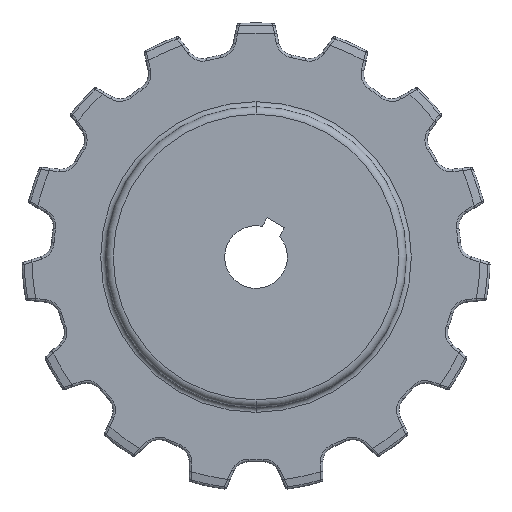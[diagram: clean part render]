
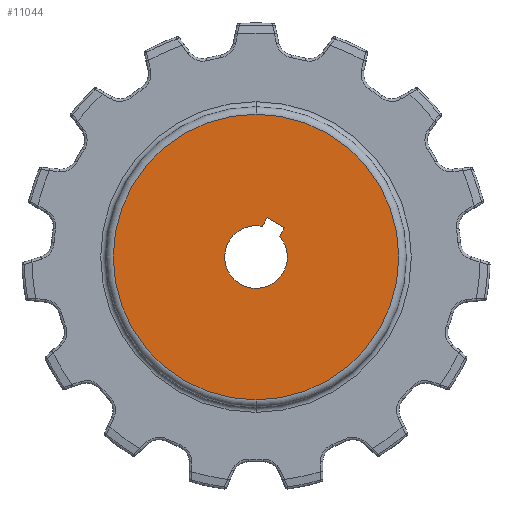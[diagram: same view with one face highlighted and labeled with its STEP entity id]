
A CAD part, left-side view. The second image highlights one B-rep face of the part: STEP entity #11044.
In plain terms, the highlighted planar face has unit normal (-1, 0, 0).
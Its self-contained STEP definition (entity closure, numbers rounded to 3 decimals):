
#2244=CARTESIAN_POINT('',(-21.15,0.,0.));
#2245=DIRECTION('',(-1.,0.,0.));
#2246=DIRECTION('',(0.,0.,-1.));
#2247=AXIS2_PLACEMENT_3D('',#2244,#2245,#2246);
#2252=CARTESIAN_POINT('',(-21.15,0.,0.));
#2253=DIRECTION('',(1.,0.,0.));
#2254=DIRECTION('',(0.,0.,-1.));
#2255=AXIS2_PLACEMENT_3D('',#2252,#2253,#2254);
#2260=DIRECTION('',(0.,0.5,-0.866));
#2261=VECTOR('',#2260,3.957);
#2262=CARTESIAN_POINT('',(-21.15,-11.364,11.683));
#2263=LINE('',#2262,#2261);
#2267=DIRECTION('',(0.,-0.866,-0.5));
#2268=VECTOR('',#2267,8.);
#2269=CARTESIAN_POINT('',(-21.15,-4.436,15.683));
#2270=LINE('',#2269,#2268);
#2274=DIRECTION('',(0.,-0.5,0.866));
#2275=VECTOR('',#2274,3.957);
#2276=CARTESIAN_POINT('',(-21.15,-2.457,12.256));
#2277=LINE('',#2276,#2275);
#2281=CARTESIAN_POINT('',(-21.15,0.,0.));
#2282=DIRECTION('',(1.,0.,0.));
#2283=DIRECTION('',(0.,-0.751,0.66));
#2284=AXIS2_PLACEMENT_3D('',#2281,#2282,#2283);
#8946=CARTESIAN_POINT('',(-21.15,0.,-57.));
#8948=VERTEX_POINT('',#8946);
#8950=CARTESIAN_POINT('',(-21.15,0.,57.));
#8952=VERTEX_POINT('',#8950);
#9982=CARTESIAN_POINT('',(-21.15,-11.364,11.683));
#9983=CARTESIAN_POINT('',(-21.15,-9.385,8.256));
#9984=VERTEX_POINT('',#9982);
#9985=VERTEX_POINT('',#9983);
#9986=CARTESIAN_POINT('',(-21.15,-2.457,12.256));
#9987=VERTEX_POINT('',#9986);
#9988=CARTESIAN_POINT('',(-21.15,-4.436,15.683));
#9989=VERTEX_POINT('',#9988);
#11025=CARTESIAN_POINT('',(-21.15,0.,0.));
#11026=DIRECTION('',(1.,0.,0.));
#11027=DIRECTION('',(0.,0.,1.));
#11028=AXIS2_PLACEMENT_3D('',#11025,#11026,#11027);
#11029=PLANE('',#11028);
#11030=ORIENTED_EDGE('',*,*,#11018,.F.);
#11031=ORIENTED_EDGE('',*,*,#11007,.T.);
#11032=EDGE_LOOP('',(#11030,#11031));
#11033=FACE_OUTER_BOUND('',#11032,.F.);
#11035=ORIENTED_EDGE('',*,*,#11034,.F.);
#11037=ORIENTED_EDGE('',*,*,#11036,.F.);
#11039=ORIENTED_EDGE('',*,*,#11038,.F.);
#11041=ORIENTED_EDGE('',*,*,#11040,.F.);
#11042=EDGE_LOOP('',(#11035,#11037,#11039,#11041));
#11043=FACE_BOUND('',#11042,.F.);
#2248=CIRCLE('',#2247,57.);
#2256=CIRCLE('',#2255,57.);
#2285=CIRCLE('',#2284,12.5);
#11007=EDGE_CURVE('',#8948,#8952,#2256,.T.);
#11018=EDGE_CURVE('',#8948,#8952,#2248,.T.);
#11034=EDGE_CURVE('',#9984,#9985,#2263,.T.);
#11036=EDGE_CURVE('',#9989,#9984,#2270,.T.);
#11038=EDGE_CURVE('',#9987,#9989,#2277,.T.);
#11040=EDGE_CURVE('',#9985,#9987,#2285,.T.);
#11044=ADVANCED_FACE('',(#11033,#11043),#11029,.F.);
